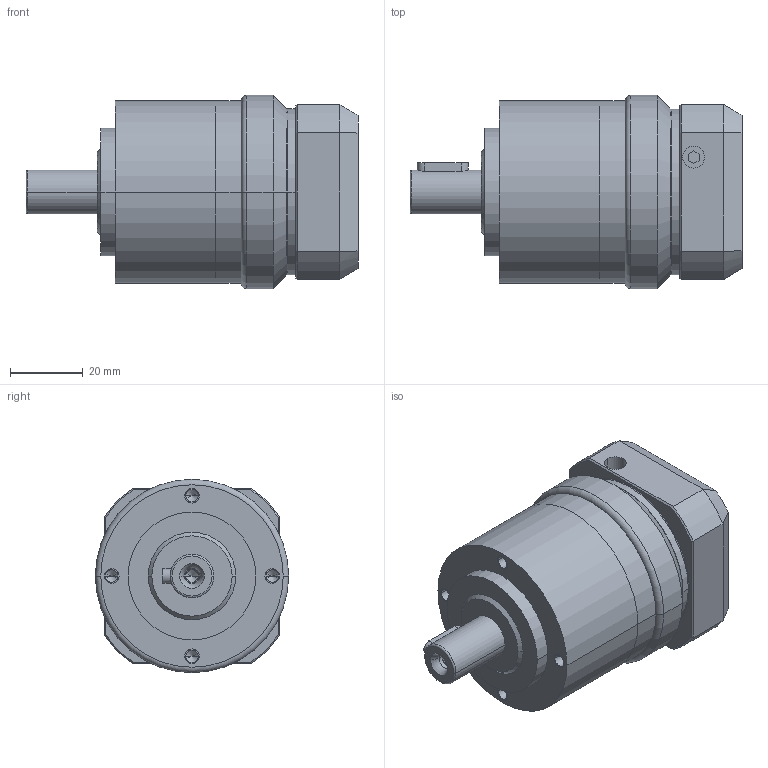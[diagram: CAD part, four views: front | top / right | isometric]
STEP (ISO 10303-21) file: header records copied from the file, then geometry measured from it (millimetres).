
FILE_DESCRIPTION((''),'2;1');
FILE_NAME('AE0501-P4110102_ASM','2005-10-31T',('D4016'),(''),'PRO/ENGINEER BY PARAMETRIC TECHNOLOGY CORPORATION, 2001280','PRO/ENGINEER BY PARAMETRIC TECHNOLOGY CORPORATION, 2001280','');
FILE_SCHEMA(('CONFIG_CONTROL_DESIGN'));
Length unit declared in the file: millimetre
Products named in the file (5): AE050-1; PK710001; COVER-SET-1_ASM; P4110102; AE0501-P4110102_ASM
Assembly tree (4 placements, depth 3):
  AE0501-P4110102_ASM
    AE050-1
    COVER-SET-1_ASM
      PK710001
    P4110102
Bounding box: 91 x 53 x 53 mm (x, y, z)
Volume: 126622.5 mm3; surface area: 30549.5 mm2
Topology: 3 solids, 12 shells, 188 faces, 434 edges, 263 vertices
Faces by surface type: cylinder 77, plane 53, cone 44, torus 14
Entity records: 5446 total; most frequent: DIRECTION 1024, CARTESIAN_POINT 972, ORIENTED_EDGE 796, AXIS2_PLACEMENT_3D 427, EDGE_CURVE 416, VERTEX_POINT 263, CIRCLE 225, EDGE_LOOP 223
